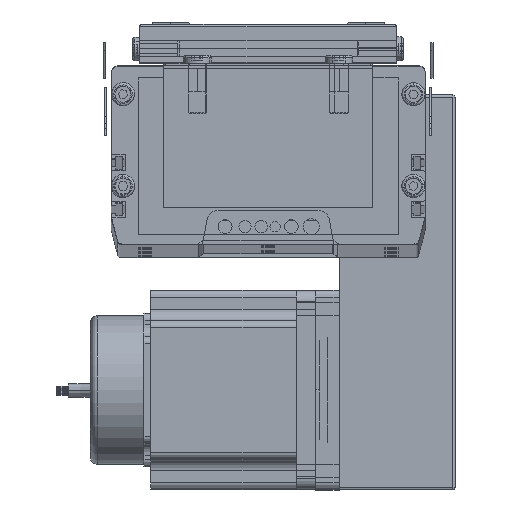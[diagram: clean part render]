
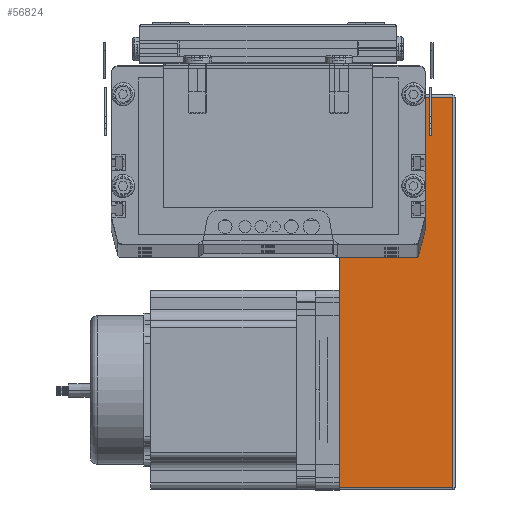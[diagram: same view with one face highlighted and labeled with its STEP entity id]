
A CAD part, top view. The second image highlights one B-rep face of the part: STEP entity #56824.
In plain terms, the highlighted planar face has unit normal (0, 0, 1) as drawn and (0, 1, 0) by its records, which use the part's own axes.
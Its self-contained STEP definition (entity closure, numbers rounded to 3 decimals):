
#4127 = LINE ( 'NONE', #4564, #4563 ) ;
#4134 = CARTESIAN_POINT ( 'NONE',  ( 1., 70., 49. ) ) ;
#4158 = CARTESIAN_POINT ( 'NONE',  ( 5.418, 70., 0. ) ) ;
#4206 = DIRECTION ( 'NONE',  ( 1., 0., 0. ) ) ;
#4208 = VECTOR ( 'NONE', #4206, 1000. ) ;
#4210 = CARTESIAN_POINT ( 'NONE',  ( 0., 70., 0. ) ) ;
#4229 = LINE ( 'NONE', #4210, #4208 ) ;
#4290 = DIRECTION ( 'NONE',  ( 1., 0., 0. ) ) ;
#4292 = VECTOR ( 'NONE', #4290, 1000. ) ;
#4294 = CARTESIAN_POINT ( 'NONE',  ( 0., 70., 0. ) ) ;
#4295 = LINE ( 'NONE', #4294, #4292 ) ;
#4319 = DIRECTION ( 'NONE',  ( 1., 0., 0. ) ) ;
#4321 = VECTOR ( 'NONE', #4319, 1000. ) ;
#4324 = CARTESIAN_POINT ( 'NONE',  ( 0., 70., 0. ) ) ;
#4325 = LINE ( 'NONE', #4324, #4321 ) ;
#4385 = DIRECTION ( 'NONE',  ( 0., 0., 1. ) ) ;
#4387 = VECTOR ( 'NONE', #4385, 1000. ) ;
#4388 = CARTESIAN_POINT ( 'NONE',  ( 1., 70., 50. ) ) ;
#4389 = LINE ( 'NONE', #4388, #4387 ) ;
#4396 = DIRECTION ( 'NONE',  ( 0., 0., -1. ) ) ;
#4397 = VECTOR ( 'NONE', #4396, 1000. ) ;
#4398 = CARTESIAN_POINT ( 'NONE',  ( 169., 70., 50. ) ) ;
#4400 = LINE ( 'NONE', #4398, #4397 ) ;
#4562 = DIRECTION ( 'NONE',  ( 1., 0., 0. ) ) ;
#4563 = VECTOR ( 'NONE', #4562, 1000. ) ;
#4564 = CARTESIAN_POINT ( 'NONE',  ( 0., 70., 0. ) ) ;
#4566 = CARTESIAN_POINT ( 'NONE',  ( 80.439, 70., 0. ) ) ;
#4691 = CARTESIAN_POINT ( 'NONE',  ( 74.961, 70., 0. ) ) ;
#4709 = CARTESIAN_POINT ( 'NONE',  ( 85.9, 70., 0. ) ) ;
#4826 = CARTESIAN_POINT ( 'NONE',  ( 169., 70., 0. ) ) ;
#5028 = CARTESIAN_POINT ( 'NONE',  ( 0., 70., 49. ) ) ;
#5044 = CARTESIAN_POINT ( 'NONE',  ( 10.902, 70., 0. ) ) ;
#5046 = CARTESIAN_POINT ( 'NONE',  ( 169., 70., 49. ) ) ;
#5087 = CARTESIAN_POINT ( 'NONE',  ( 1., 70., 0. ) ) ;
#5214 = DIRECTION ( 'NONE',  ( 1., 0., 0. ) ) ;
#5216 = VECTOR ( 'NONE', #5214, 1000. ) ;
#5222 = DIRECTION ( 'NONE',  ( 1., 0., 0. ) ) ;
#5224 = VECTOR ( 'NONE', #5222, 1000. ) ;
#5225 = CARTESIAN_POINT ( 'NONE',  ( 0., 70., 0. ) ) ;
#5230 = LINE ( 'NONE', #5028, #5216 ) ;
#5235 = LINE ( 'NONE', #5225, #5224 ) ;
#56777 = ORIENTED_EDGE ( 'NONE', *, *, #56819, .T. ) ;
#56780 = EDGE_LOOP ( 'NONE', ( #56777, #57313, #57228, #57109, #57150, #57154, #57158, #57122, #57157 ) ) ;
#56819 = EDGE_CURVE ( 'NONE', #57321, #57314, #109707, .T. ) ;
#56824 = ADVANCED_FACE ( 'NONE', ( #109690 ), #109679, .F. ) ;
#57106 = VERTEX_POINT ( 'NONE', #4134 ) ;
#57107 = EDGE_CURVE ( 'NONE', #57110, #57314, #4127, .T. ) ;
#57109 = ORIENTED_EDGE ( 'NONE', *, *, #57229, .F. ) ;
#57110 = VERTEX_POINT ( 'NONE', #4566 ) ;
#57111 = VERTEX_POINT ( 'NONE', #4158 ) ;
#57122 = ORIENTED_EDGE ( 'NONE', *, *, #57230, .T. ) ;
#57149 = EDGE_CURVE ( 'NONE', #57111, #57227, #4325, .T. ) ;
#57150 = ORIENTED_EDGE ( 'NONE', *, *, #57149, .F. ) ;
#57151 = EDGE_CURVE ( 'NONE', #57225, #57111, #4295, .T. ) ;
#57153 = EDGE_CURVE ( 'NONE', #57226, #57321, #4400, .T. ) ;
#57154 = ORIENTED_EDGE ( 'NONE', *, *, #57151, .F. ) ;
#57155 = EDGE_CURVE ( 'NONE', #57225, #57106, #4389, .T. ) ;
#57157 = ORIENTED_EDGE ( 'NONE', *, *, #57153, .T. ) ;
#57158 = ORIENTED_EDGE ( 'NONE', *, *, #57155, .T. ) ;
#57184 = EDGE_CURVE ( 'NONE', #57312, #57110, #4229, .T. ) ;
#57225 = VERTEX_POINT ( 'NONE', #5087 ) ;
#57226 = VERTEX_POINT ( 'NONE', #5046 ) ;
#57227 = VERTEX_POINT ( 'NONE', #5044 ) ;
#57228 = ORIENTED_EDGE ( 'NONE', *, *, #57184, .F. ) ;
#57229 = EDGE_CURVE ( 'NONE', #57227, #57312, #5235, .T. ) ;
#57230 = EDGE_CURVE ( 'NONE', #57106, #57226, #5230, .T. ) ;
#57312 = VERTEX_POINT ( 'NONE', #4691 ) ;
#57313 = ORIENTED_EDGE ( 'NONE', *, *, #57107, .F. ) ;
#57314 = VERTEX_POINT ( 'NONE', #4709 ) ;
#57321 = VERTEX_POINT ( 'NONE', #4826 ) ;
#109665 = DIRECTION ( 'NONE',  ( 0., 0., -1. ) ) ;
#109666 = DIRECTION ( 'NONE',  ( 0., -1., 0. ) ) ;
#109679 = PLANE ( 'NONE',  #109712 ) ;
#109686 = CARTESIAN_POINT ( 'NONE',  ( 0., 70., 50. ) ) ;
#109690 = FACE_OUTER_BOUND ( 'NONE', #56780, .T. ) ;
#109702 = DIRECTION ( 'NONE',  ( -1., 0., 0. ) ) ;
#109703 = VECTOR ( 'NONE', #109702, 1000. ) ;
#109705 = CARTESIAN_POINT ( 'NONE',  ( 0., 70., 0. ) ) ;
#109707 = LINE ( 'NONE', #109705, #109703 ) ;
#109712 = AXIS2_PLACEMENT_3D ( 'NONE', #109686, #109666, #109665 ) ;
